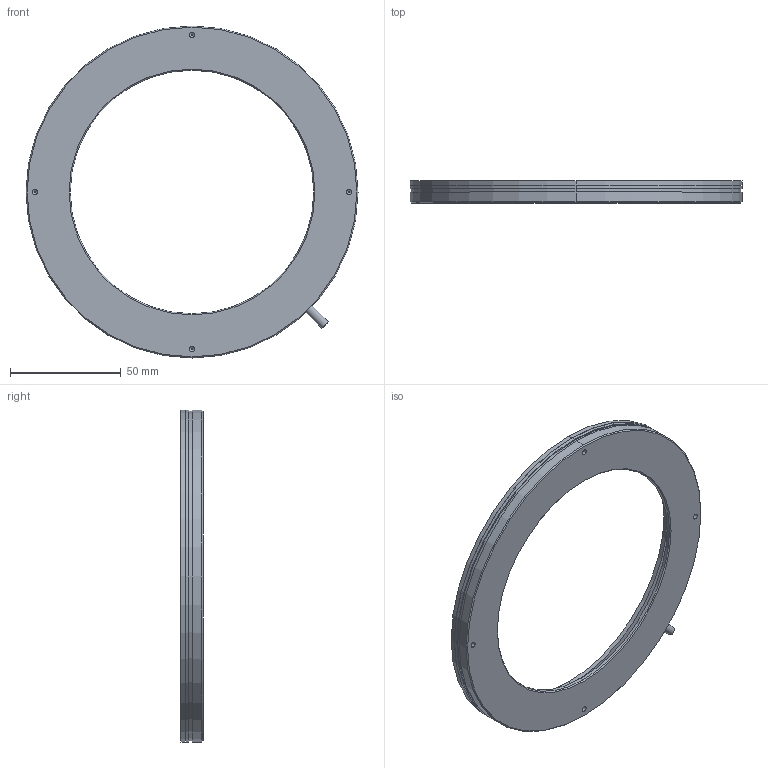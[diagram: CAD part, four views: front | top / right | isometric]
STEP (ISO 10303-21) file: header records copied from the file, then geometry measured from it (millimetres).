
FILE_DESCRIPTION (( 'STEP AP203' ), '1' );
FILE_NAME ('RI15090-W.STEP', '2021-10-13T03:17:38', ( 'Windows 蚚誧' ), ( 'Microsoft' ), 'SwSTEP 2.0', 'SolidWorks 2016', '' );
FILE_SCHEMA (( 'CONFIG_CONTROL_DESIGN' ));
Length unit declared in the file: millimetre
Products named in the file (1): RI15090-W
Bounding box: 150 x 10 x 150 mm (x, y, z)
Volume: 49811.6 mm3; surface area: 47837.3 mm2
Topology: 4 solids, 4 shells, 71 faces, 172 edges, 110 vertices
Faces by surface type: cylinder 38, plane 17, cone 12, torus 4
Entity records: 2255 total; most frequent: DIRECTION 418, CARTESIAN_POINT 384, ORIENTED_EDGE 344, AXIS2_PLACEMENT_3D 180, EDGE_CURVE 172, VERTEX_POINT 110, CIRCLE 108, EDGE_LOOP 94
